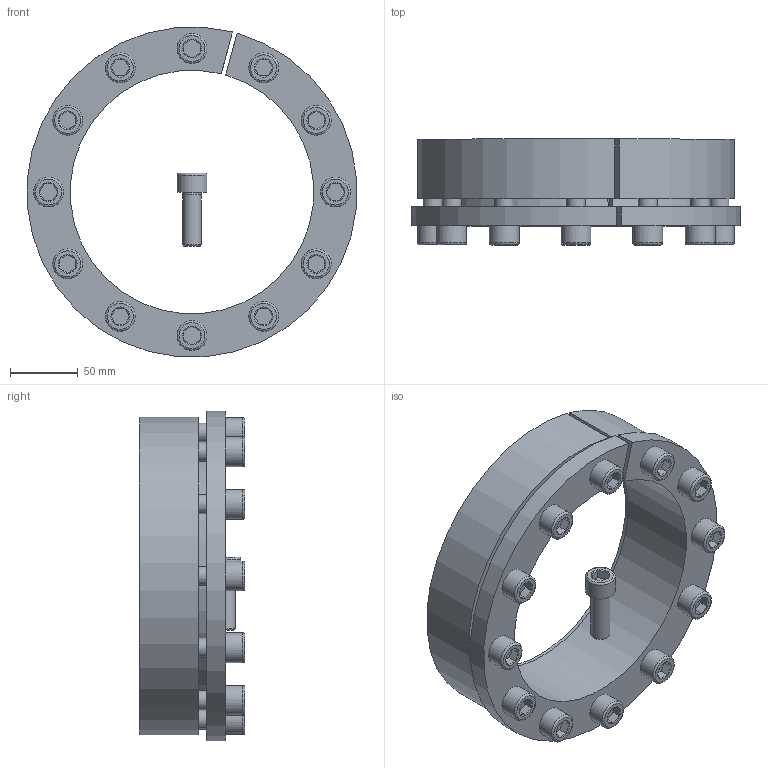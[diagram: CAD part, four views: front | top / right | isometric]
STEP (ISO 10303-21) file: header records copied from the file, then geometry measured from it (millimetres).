
FILE_DESCRIPTION( ( 'Unknown' ), '1' );
FILE_NAME( 'C:/Dokumente und Einstellungen/Sven/Desktop/homepage/cad - homepage/KBS16/KBS 16 - 180 x 235.stp', 'Unknown', ( 'Unknown' ), ( 'Unknown' ), 'XStep 1.0', 'Unknown', ' ' );
FILE_SCHEMA( ( 'automotive_design' ) );
Length unit declared in the file: millimetre
Products named in the file (3): Assem1; KBS 16 - 180 x 235; ISO EN DIN 4762 M14x40
Bounding box: 243.23 x 78 x 243.22 mm (x, y, z)
Volume: 2139593.4 mm3; surface area: 405650.5 mm2
Topology: 15 solids, 15 shells, 397 faces, 785 edges, 470 vertices
Faces by surface type: plane 170, cylinder 106, cone 95, torus 26
Full cylindrical faces by diameter (mm): 12 x13, 14 x74, 22 x13
Entity records: 2170 total; most frequent: CARTESIAN_POINT 349, DIRECTION 328, ORIENTED_EDGE 226, AXIS2_PLACEMENT_3D 150, EDGE_LOOP 144, EDGE_CURVE 113, FACE_OUTER_BOUND 91, VERTEX_POINT 91
